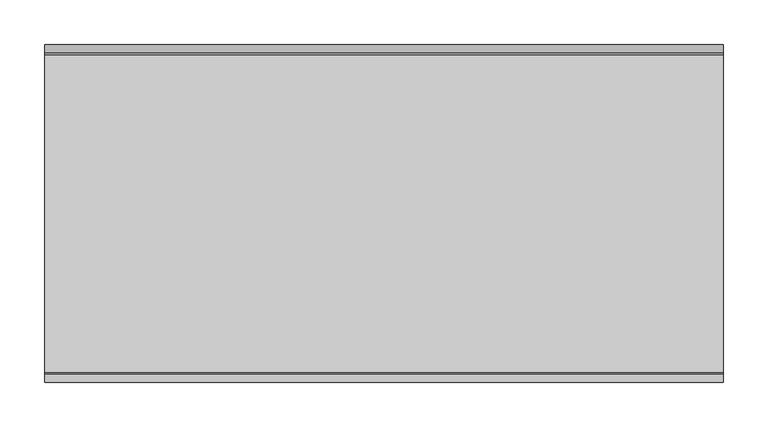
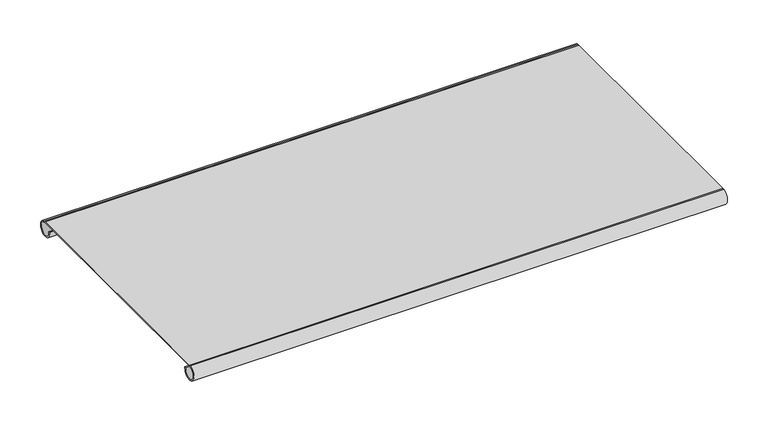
"""IFC4 building model written with IfcOpenShell, lengths in millimetres: furniture geometry, OFS VIDE LEATHER SLING SHELVES : Leather Sling Shelf 30."""

from ifc_helpers import new_model, si_unit, point, frame, frame_2d, origin, place, context, project, spatial, polyline, circle_curve, trimmed, segment, composite_curve, outline, extrude, source, transform, mapped, element, save


def furniture_10d49e3e(model_context):
    return source(origin(), model_context, "Body", "SweptSolid", [
        extrude(outline(composite_curve([segment(trimmed(circle_curve(frame_2d((177.8, 82.55)), 9.525), [point((168.4229668, 84.2223854))], [point((179.4723854, 91.9270332))], True, "CARTESIAN"), True, "CONTINUOUS"), segment(trimmed(circle_curve(frame_2d((178.3574618, 85.6756777)), 6.35), [point((179.4723854, 91.9270332))], [point((177.9721778, 92.0139785))], True, "CARTESIAN"), True, "CONTINUOUS"), segment(trimmed(circle_curve(frame_2d((0.0, 3019.8312683)), 2933.2214678), [point((177.9721778, 92.0139785))], [point((-177.9721778, 92.0139785))], False, "CARTESIAN"), True, "CONTINUOUS"), segment(trimmed(circle_curve(frame_2d((-178.3574618, 85.6756777)), 6.35), [point((-177.9721778, 92.0139785))], [point((-179.4723854, 91.9270332))], True, "CARTESIAN"), True, "CONTINUOUS"), segment(trimmed(circle_curve(frame_2d((-177.8, 82.55)), 9.525), [point((-179.4723854, 91.9270332))], [point((-168.4229668, 84.2223854))], True, "CARTESIAN"), True, "CONTINUOUS"), segment(polyline([(-168.4229668, 84.2223854), (-166.8601279, 84.5011163)]), True, "CONTINUOUS"), segment(trimmed(circle_curve(frame_2d((-177.8, 82.55)), 11.1125), [point((-166.8601279, 84.5011163))], [point((-179.7511163, 93.4898721))], False, "CARTESIAN"), True, "CONTINUOUS"), segment(trimmed(circle_curve(frame_2d((-178.3574618, 85.6756777)), 7.9375), [point((-179.7511163, 93.4898721))], [point((-177.8758568, 93.5985537))], False, "CARTESIAN"), True, "CONTINUOUS"), segment(trimmed(circle_curve(frame_2d((0.0, 3019.8312683)), 2931.6339678), [point((-177.8758568, 93.5985537))], [point((177.8758568, 93.5985537))], True, "CARTESIAN"), True, "CONTINUOUS"), segment(trimmed(circle_curve(frame_2d((178.3574618, 85.6756777)), 7.9375), [point((177.8758568, 93.5985537))], [point((179.7511163, 93.4898721))], False, "CARTESIAN"), True, "CONTINUOUS"), segment(trimmed(circle_curve(frame_2d((177.8, 82.55)), 11.1125), [point((179.7511163, 93.4898721))], [point((166.8601279, 84.5011163))], False, "CARTESIAN"), True, "CONTINUOUS"), segment(polyline([(166.8601279, 84.5011163), (168.4229668, 84.2223854)]), True, "CONTINUOUS")], self_intersect=False)), frame((-379.4125, 0.0, 0.0), z_axis=(1.0, 0.0, 0.0), x_axis=(0.0, 1.0, 0.0)), (0.0, 0.0, 1.0), 758.825),
    ])


if __name__ == "__main__":
    model = new_model("IFC4")
    model_context = context("Model", 3, world=origin())
    ifc_project = project(units=[si_unit("LENGTHUNIT", "METRE", prefix="MILLI")], contexts=[model_context])
    site = spatial("IfcSite", under=ifc_project)
    building = spatial("IfcBuilding", under=site)
    placement = place(None, origin())
    furniture_shape = furniture_10d49e3e(model_context)
    element("IfcFurniture", 1, ObjectType="OFS VIDE LEATHER SLING SHELVES : Leather Sling Shelf 30", at=placement, inside=building, context=model_context, shape_type="MappedRepresentation", body=[
        mapped(furniture_shape, transform((0.0, 0.0, 0.0), x_axis=(1.0, 0.0, 0.0), y_axis=(0.0, 1.0, 0.0), z_axis=(0.0, 0.0, 1.0))),
    ])
    save(model, "model.ifc")
